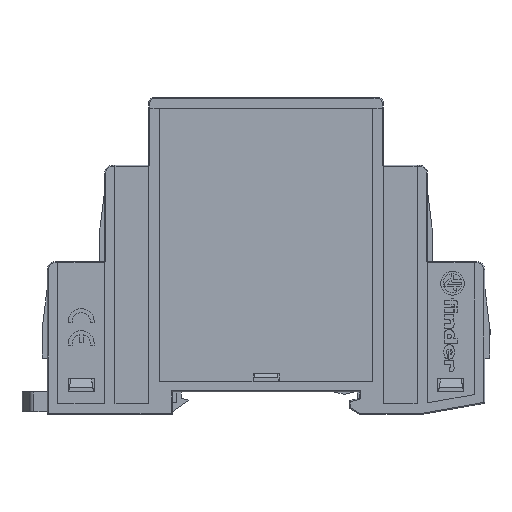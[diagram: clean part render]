
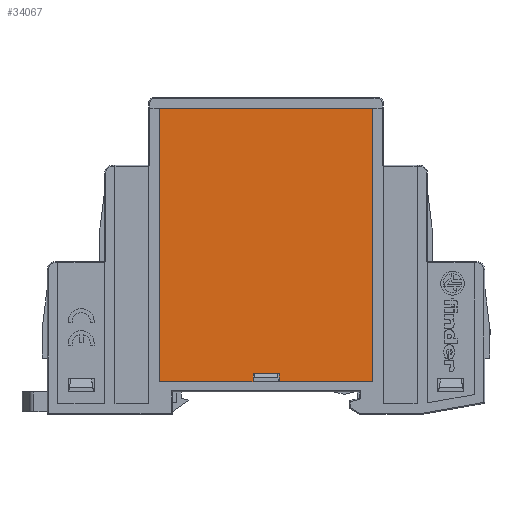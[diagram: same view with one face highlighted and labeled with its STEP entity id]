
A CAD part, left-side view. The second image highlights one B-rep face of the part: STEP entity #34067.
In plain terms, the highlighted planar face has unit normal (-1, 0, 0).
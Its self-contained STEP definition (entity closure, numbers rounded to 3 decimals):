
#7462=ORIENTED_EDGE('',*,*,#13819,.T.);
#7463=ORIENTED_EDGE('',*,*,#13828,.T.);
#7464=ORIENTED_EDGE('',*,*,#13433,.F.);
#7465=ORIENTED_EDGE('',*,*,#13816,.F.);
#7466=ORIENTED_EDGE('',*,*,#13827,.T.);
#7467=ORIENTED_EDGE('',*,*,#13922,.T.);
#7468=ORIENTED_EDGE('',*,*,#13923,.T.);
#7469=ORIENTED_EDGE('',*,*,#13924,.T.);
#13433=EDGE_CURVE('',#18028,#18029,#22536,.T.);
#13816=EDGE_CURVE('',#18297,#18028,#22860,.T.);
#13819=EDGE_CURVE('',#18299,#18298,#22863,.T.);
#13827=EDGE_CURVE('',#18297,#18304,#22871,.T.);
#13828=EDGE_CURVE('',#18298,#18029,#22872,.T.);
#13922=EDGE_CURVE('',#18304,#18359,#22951,.T.);
#13923=EDGE_CURVE('',#18359,#18360,#22952,.T.);
#13924=EDGE_CURVE('',#18360,#18299,#22953,.T.);
#18028=VERTEX_POINT('',#58973);
#18029=VERTEX_POINT('',#58975);
#18297=VERTEX_POINT('',#60035);
#18298=VERTEX_POINT('',#60039);
#18299=VERTEX_POINT('',#60041);
#18304=VERTEX_POINT('',#60055);
#18359=VERTEX_POINT('',#60287);
#18360=VERTEX_POINT('',#60289);
#22536=LINE('',#58974,#27429);
#22860=LINE('',#60034,#27753);
#22863=LINE('',#60040,#27756);
#22871=LINE('',#60056,#27764);
#22872=LINE('',#60058,#27765);
#22951=LINE('',#60286,#27844);
#22952=LINE('',#60288,#27845);
#22953=LINE('',#60290,#27846);
#27429=VECTOR('',#47239,1000.);
#27753=VECTOR('',#47855,1000.);
#27756=VECTOR('',#47860,1000.);
#27764=VECTOR('',#47872,1000.);
#27765=VECTOR('',#47875,1000.);
#27844=VECTOR('',#48036,1000.);
#27845=VECTOR('',#48037,1000.);
#27846=VECTOR('',#48038,1000.);
#29906=EDGE_LOOP('',(#7462,#7463,#7464,#7465,#7466,#7467,#7468,#7469));
#31413=FACE_BOUND('',#29906,.T.);
#32702=PLANE('',#40981);
#34067=ADVANCED_FACE('',(#31413),#32702,.T.);
#40981=AXIS2_PLACEMENT_3D('',#60285,#48034,#48035);
#47239=DIRECTION('',(0.,-1.,0.));
#47855=DIRECTION('',(0.,0.,1.));
#47860=DIRECTION('',(0.,-1.,0.));
#47872=DIRECTION('',(0.,-1.,0.));
#47875=DIRECTION('',(0.,0.,1.));
#48034=DIRECTION('',(-1.,0.,0.));
#48035=DIRECTION('',(0.,0.,1.));
#48036=DIRECTION('',(0.,0.,1.));
#48037=DIRECTION('',(0.,-1.,0.));
#48038=DIRECTION('',(0.,0.,-1.));
#58973=CARTESIAN_POINT('',(-1.964,61.653,4.246));
#58974=CARTESIAN_POINT('',(-1.964,41.153,4.246));
#58975=CARTESIAN_POINT('',(-1.964,20.653,4.246));
#60034=CARTESIAN_POINT('',(-1.964,61.653,-22.004));
#60035=CARTESIAN_POINT('',(-1.964,61.653,-48.254));
#60039=CARTESIAN_POINT('',(-1.964,20.653,-48.254));
#60040=CARTESIAN_POINT('',(-1.964,29.653,-48.254));
#60041=CARTESIAN_POINT('',(-1.964,38.653,-48.254));
#60055=CARTESIAN_POINT('',(-1.964,43.653,-48.254));
#60056=CARTESIAN_POINT('',(-1.964,52.653,-48.254));
#60058=CARTESIAN_POINT('',(-1.964,20.653,-22.004));
#60285=CARTESIAN_POINT('',(-1.964,-0.848,-54.555));
#60286=CARTESIAN_POINT('',(-1.964,43.653,-47.504));
#60287=CARTESIAN_POINT('',(-1.964,43.653,-46.754));
#60288=CARTESIAN_POINT('',(-1.964,41.153,-46.754));
#60289=CARTESIAN_POINT('',(-1.964,38.653,-46.754));
#60290=CARTESIAN_POINT('',(-1.964,38.653,-47.504));
